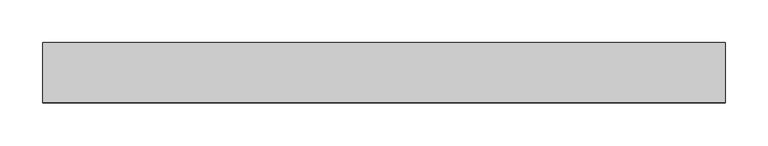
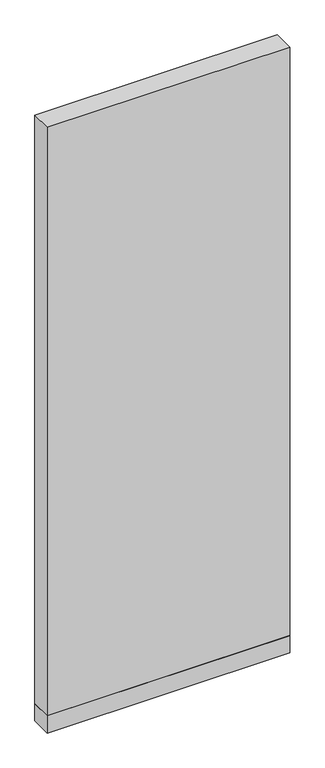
"""IFC4 building model written with IfcOpenShell, lengths in millimetres: plate geometry, 営_パーティションパネル_下部 : パーティションパネル_下部."""

import ifcopenshell
import ifcopenshell.guid

model = None  # the IFC model being written
_history = None  # IfcOwnerHistory: only IFC2X3 demands one
_inside = {}  # id of a spatial element -> (the spatial element, [elements in it])
_under = {}  # id of a project, library or spatial element -> (it, [spatial elements below it])
_declared = {}  # id of a project -> (the project, [libraries it declares])
_typed = {}  # id of a type object -> (the type object, [elements of that type])
_made_of = {}  # id of a material, layer set ... -> (it, [elements and type objects made of it])


def new_model(schema):
    """Start an empty IFC model of exactly this schema.

    Asked for "IFC4X3", IfcOpenShell would pick the latest addendum, in which some entities
    have other attributes; the version numbers below select the first issue.
    IFC2X3 requires an IfcOwnerHistory on every rooted entity: one is made here for all.
    """
    global model, _history
    if schema == "IFC4X3":
        model = ifcopenshell.file(schema_version=(4, 3, 0, 0))
    else:
        model = ifcopenshell.file(schema=schema)
    _inside.clear()
    _under.clear()
    _declared.clear()
    _typed.clear()
    _made_of.clear()
    _history = None
    if model.schema == "IFC2X3":
        org = make("IfcOrganization", Name="unknown")
        user = make(
            "IfcPersonAndOrganization",
            ThePerson=make("IfcPerson", FamilyName="unknown"),
            TheOrganization=org,
        )
        app = make(
            "IfcApplication",
            ApplicationDeveloper=org,
            Version="unknown",
            ApplicationFullName="unknown",
            ApplicationIdentifier="unknown",
        )
        _history = make(
            "IfcOwnerHistory",
            OwningUser=user,
            OwningApplication=app,
            ChangeAction="ADDED",
            CreationDate=0,
        )
    return model


def make(cls, **values):
    """One entity of the class cls with the attributes given. An attribute that is None is left unset."""
    return model.create_entity(
        cls, **{name: value for name, value in values.items() if value is not None}
    )


def rooted(cls, **values):
    """An entity with a GlobalId (a new one), such as an element, a storey or a relation."""
    return make(cls, GlobalId=ifcopenshell.guid.new(), OwnerHistory=_history, **values)


def si_unit(unit_type, name, prefix=None):
    """IfcSIUnit, for example si_unit("LENGTHUNIT", "METRE", prefix="MILLI")."""
    return make("IfcSIUnit", UnitType=unit_type, Prefix=prefix, Name=name)


def assignment(units):
    """IfcUnitAssignment: the units of a project."""
    return None if units is None else make("IfcUnitAssignment", Units=units)


def point(xyz):
    """IfcCartesianPoint."""
    return None if xyz is None else make("IfcCartesianPoint", Coordinates=xyz)


def direction(xyz):
    """IfcDirection."""
    return None if xyz is None else make("IfcDirection", DirectionRatios=xyz)


def frame(location, z_axis=None, x_axis=None):
    """IfcAxis2Placement3D, a coordinate frame: its origin and axes. An axis left out is left unset."""
    return make(
        "IfcAxis2Placement3D",
        Location=point(location),
        Axis=direction(z_axis),
        RefDirection=direction(x_axis),
    )


def origin():
    """The frame at (0, 0, 0) with its axes left unset."""
    return frame((0.0, 0.0, 0.0))


def origin_with_axes():
    """The frame at (0, 0, 0) with the z axis (0, 0, 1) and the x axis (1, 0, 0) written out."""
    return frame((0.0, 0.0, 0.0), z_axis=(0.0, 0.0, 1.0), x_axis=(1.0, 0.0, 0.0))


def place(relative_to, where):
    """IfcLocalPlacement: puts the frame where relative to a parent placement (None: the world)."""
    return make(
        "IfcLocalPlacement", PlacementRelTo=relative_to, RelativePlacement=where
    )


def context(
    kind, dimensions, precision=None, world=None, true_north=None, identifier=None
):
    """IfcGeometricRepresentationContext, for example the 3D "Model" context."""
    return make(
        "IfcGeometricRepresentationContext",
        ContextIdentifier=identifier,
        ContextType=kind,
        CoordinateSpaceDimension=dimensions,
        Precision=precision,
        WorldCoordinateSystem=world,
        TrueNorth=true_north,
    )


def project(units=None, contexts=None):
    """IfcProject with its units and contexts."""
    return rooted(
        "IfcProject",
        Name="project",
        RepresentationContexts=contexts,
        UnitsInContext=assignment(units),
    )


def spatial(cls, under=None, at=None, **own):
    """A site, building, storey or space (cls), placed at a placement, below another one or the project."""
    s = rooted(cls, ObjectPlacement=at, **own)
    if under is not None:
        _under.setdefault(under.id(), (under, []))[1].append(s)
    return s


def polyline(points):
    """IfcPolyline through the points."""
    return make("IfcPolyline", Points=[point(p) for p in points])


def outline(outer, holes=None, kind="AREA"):
    """IfcArbitraryClosedProfileDef: a profile drawn as a closed curve; with holes, ...WithVoids."""
    if holes is None:
        return make("IfcArbitraryClosedProfileDef", ProfileType=kind, OuterCurve=outer)
    return make(
        "IfcArbitraryProfileDefWithVoids",
        ProfileType=kind,
        OuterCurve=outer,
        InnerCurves=holes,
    )


def extrude(swept, where, along, depth):
    """IfcExtrudedAreaSolid: the profile swept, set in the frame where, extruded along a direction by depth."""
    return make(
        "IfcExtrudedAreaSolid",
        SweptArea=swept,
        Position=where,
        ExtrudedDirection=direction(along),
        Depth=depth,
    )


def shape(context_of_items, identifier, shape_type, items):
    """IfcShapeRepresentation: the items that make up one representation, for example the "Body"."""
    return make(
        "IfcShapeRepresentation",
        ContextOfItems=context_of_items,
        RepresentationIdentifier=identifier,
        RepresentationType=shape_type,
        Items=items,
    )


def source(mapping_origin, context_of_items, identifier, shape_type, items):
    """IfcRepresentationMap: a shape defined once, which mapped items show again and again."""
    return make(
        "IfcRepresentationMap",
        MappingOrigin=mapping_origin,
        MappedRepresentation=shape(context_of_items, identifier, shape_type, items),
    )


def transform(
    local_origin,
    x_axis=None,
    y_axis=None,
    z_axis=None,
    scale=None,
    scale2=None,
    scale3=None,
    uniform=True,
):
    """IfcCartesianTransformationOperator3D, or its non-uniform kind. x_axis, y_axis, z_axis: its Axis1, 2, 3."""
    if uniform:
        return make(
            "IfcCartesianTransformationOperator3D",
            Axis1=direction(x_axis),
            Axis2=direction(y_axis),
            LocalOrigin=point(local_origin),
            Scale=scale,
            Axis3=direction(z_axis),
        )
    return make(
        "IfcCartesianTransformationOperator3DnonUniform",
        Axis1=direction(x_axis),
        Axis2=direction(y_axis),
        LocalOrigin=point(local_origin),
        Scale=scale,
        Axis3=direction(z_axis),
        Scale2=scale2,
        Scale3=scale3,
    )


def mapped(mapping_source, mapping_target):
    """IfcMappedItem: shows the shape of a source again, moved by a transform."""
    return make(
        "IfcMappedItem", MappingSource=mapping_source, MappingTarget=mapping_target
    )


def made_of(thing, what):
    """Note that an element or type object is made of a material, layer set ...; save() writes the relation."""
    if what is not None:
        _made_of.setdefault(what.id(), (what, []))[1].append(thing)
    return thing


def element(
    cls,
    number,
    at=None,
    inside=None,
    cuts=None,
    type_object=None,
    material=None,
    context=None,
    identifier="Body",
    shape_type=None,
    held_by="IfcProductDefinitionShape",
    body=None,
    shapes=None,
    **own,
):
    """One element of the class cls, such as IfcWall. Its Tag is "e" and its number.

    at: its placement. inside: the storey or other place that contains it. cuts: it is an
    opening in that element (IfcRelVoidsElement). A single representation is given by context,
    identifier, shape_type and body (its items); several are given by shapes. held_by: the class
    of the entity that holds the representations. save() writes the other relations.
    """
    e = rooted(cls, Tag="e%d" % number, ObjectPlacement=at, **own)
    if body is not None:
        shapes = [shape(context, identifier, shape_type, body)]
    if shapes is not None:
        e.Representation = make(held_by, Representations=shapes)
    if inside is not None:
        _inside.setdefault(inside.id(), (inside, []))[1].append(e)
    if cuts is not None:
        rooted(
            "IfcRelVoidsElement", RelatingBuildingElement=cuts, RelatedOpeningElement=e
        )
    if type_object is not None:
        _typed.setdefault(type_object.id(), (type_object, []))[1].append(e)
    return made_of(e, material)


def aggregate(whole, parts):
    """IfcRelAggregates: a whole, such as a stair, and the parts it consists of."""
    return rooted("IfcRelAggregates", RelatingObject=whole, RelatedObjects=parts)


def save(model, path):
    """Write the relations noted so far, then the file.

    IfcRelAggregates (storeys below a building ...), IfcRelContainedInSpatialStructure (elements
    in a storey), IfcRelDefinesByType, IfcRelAssociatesMaterial and IfcRelDeclares: one each for
    every whole, place, type object, material and project.
    """
    for whole, parts in _under.values():
        aggregate(whole, parts)
    for where, things in _inside.values():
        rooted(
            "IfcRelContainedInSpatialStructure",
            RelatedElements=things,
            RelatingStructure=where,
        )
    for kind, things in _typed.values():
        rooted("IfcRelDefinesByType", RelatedObjects=things, RelatingType=kind)
    for what, things in _made_of.values():
        rooted("IfcRelAssociatesMaterial", RelatedObjects=things, RelatingMaterial=what)
    for by, libraries in _declared.values():
        rooted("IfcRelDeclares", RelatingContext=by, RelatedDefinitions=libraries)
    model.write(path)


def plate_2d8f2c81(model_context):
    return source(origin(), model_context, "Body", "SweptSolid", [
        extrude(outline(polyline([(-397.4999998, -35.0), (-397.4999998, 35.0), (397.4999998, 35.0), (397.4999998, -35.0), (-397.4999998, -35.0)])), origin_with_axes(), (0.0, 0.0, 1.0), 60.0),
        extrude(outline(polyline([(-397.4999998, -35.0), (-397.4999998, 35.0), (397.4999998, 35.0), (397.4999998, -35.0), (-397.4999998, -35.0)])), frame((0.0, 0.0, 60.0), z_axis=(0.0, 0.0, 1.0), x_axis=(1.0, 0.0, 0.0)), (0.0, 0.0, 1.0), 2040.0),
    ])


if __name__ == "__main__":
    model = new_model("IFC4")
    model_context = context("Model", 3, world=origin())
    ifc_project = project(units=[si_unit("LENGTHUNIT", "METRE", prefix="MILLI")], contexts=[model_context])
    site = spatial("IfcSite", under=ifc_project)
    building = spatial("IfcBuilding", under=site)
    placement = place(None, origin())
    plate_shape = plate_2d8f2c81(model_context)
    element("IfcPlate", 1, ObjectType="営_パーティションパネル_下部 : パーティションパネル_下部", at=placement, inside=building, context=model_context, shape_type="MappedRepresentation", body=[
        mapped(plate_shape, transform((0.0, 0.0, 0.0), x_axis=(1.0, 0.0, 0.0), y_axis=(0.0, 1.0, 0.0), z_axis=(0.0, 0.0, 1.0))),
    ])
    save(model, "model.ifc")
